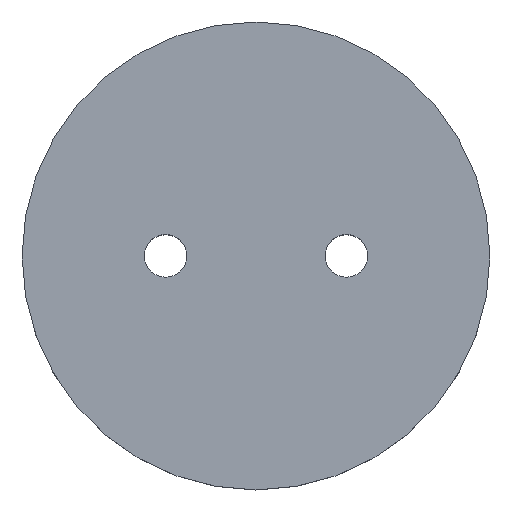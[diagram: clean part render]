
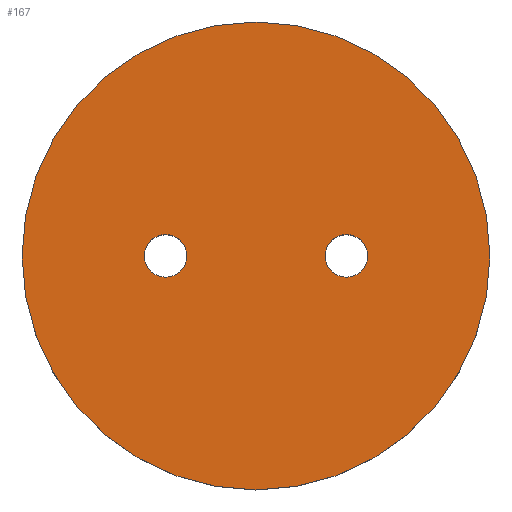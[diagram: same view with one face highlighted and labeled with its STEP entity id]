
A CAD part, top view. The second image highlights one B-rep face of the part: STEP entity #167.
In plain terms, the highlighted planar face has unit normal (0, 0, 1).
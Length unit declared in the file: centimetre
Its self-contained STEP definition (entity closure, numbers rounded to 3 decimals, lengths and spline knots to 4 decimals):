
#118=VERTEX_POINT('',#553);
#120=VERTEX_POINT('',#558);
#121=VERTEX_POINT('',#561);
#124=EDGE_CURVE('',#118,#118,#232,.T.);
#126=EDGE_CURVE('',#120,#120,#234,.T.);
#127=EDGE_CURVE('',#121,#121,#235,.T.);
#133=ORIENTED_EDGE('',*,*,#127,.F.);
#134=ORIENTED_EDGE('',*,*,#126,.T.);
#135=ORIENTED_EDGE('',*,*,#124,.T.);
#145=EDGE_LOOP('',(#133));
#146=EDGE_LOOP('',(#134));
#147=EDGE_LOOP('',(#135));
#157=FACE_BOUND('',#145,.T.);
#158=FACE_BOUND('',#146,.T.);
#159=FACE_BOUND('',#147,.T.);
#167=ADVANCED_FACE('',(#157,#158,#159),#409,.T.);
#232=CIRCLE('',#381,0.1);
#234=CIRCLE('',#384,0.1);
#235=CIRCLE('',#386,1.1);
#381=AXIS2_PLACEMENT_3D('',#552,#488,#489);
#384=AXIS2_PLACEMENT_3D('',#557,#494,#495);
#385=AXIS2_PLACEMENT_3D('',#559,#496,$);
#386=AXIS2_PLACEMENT_3D('',#560,#497,#498);
#409=PLANE('',#385);
#488=DIRECTION('',(0.,0.,-1.));
#489=DIRECTION('',(0.1,0.,0.));
#494=DIRECTION('',(0.,0.,-1.));
#495=DIRECTION('',(0.1,0.,0.));
#496=DIRECTION('',(0.,0.,1.));
#497=DIRECTION('',(0.,0.,-1.));
#498=DIRECTION('',(1.1,0.,0.));
#552=CARTESIAN_POINT('',(-0.425,0.,0.3));
#553=CARTESIAN_POINT('',(-0.525,0.,0.3));
#557=CARTESIAN_POINT('',(0.425,0.,0.3));
#558=CARTESIAN_POINT('',(0.325,0.,0.3));
#559=CARTESIAN_POINT('',(0.,0.,0.3));
#560=CARTESIAN_POINT('',(0.,0.,0.3));
#561=CARTESIAN_POINT('',(1.1,0.,0.3));
